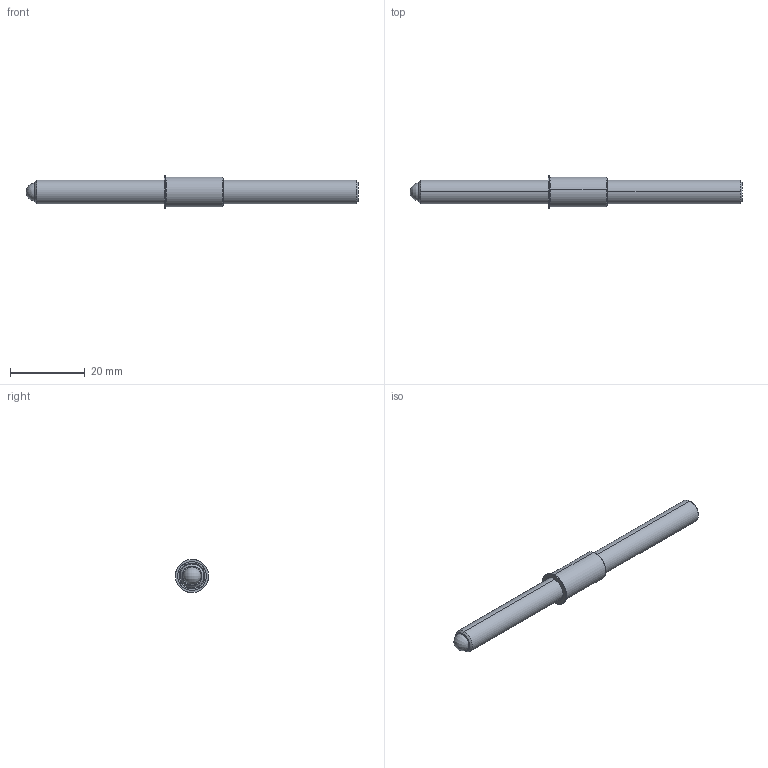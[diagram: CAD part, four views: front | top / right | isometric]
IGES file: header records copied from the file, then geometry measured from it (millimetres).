
Start section: SolidWorks IGES file using analytic representation for surfaces
Global section: file name: C:\Users\workpc\Desktop\KMA Solidworks\TSB250-80-3500_625-AA.IGS; native system: SolidWorks 2013; preprocessor: SolidWorks 2013; author: workpc; date: 130314.091632; units: inch
Bounding box: 88.9 x 8.94 x 8.94 mm (x, y, z)
Surface area: 2306.1 mm2 (no closed solid volume)
Topology: 0 solids, 0 shells, 33 faces, 406 edges, 402 vertices
Faces by surface type: revolution 22, bspline 11
